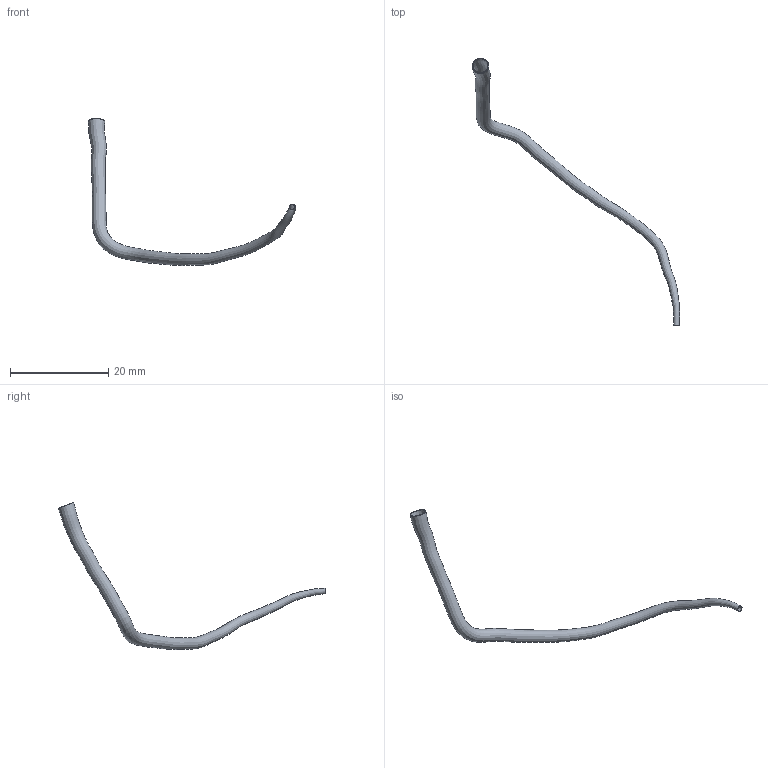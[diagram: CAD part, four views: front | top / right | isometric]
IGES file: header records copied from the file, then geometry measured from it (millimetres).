
Global section: file name: C:\Documents and Settings\Administrator\Desktop\FDA-Pig\Domestic LCA\Pig_000011\lad.seg.es.igs; native system: Rhinoceros ( May 19 2006 ); preprocessor: Trout Lake IGES 012 May 19 2006; date: 111205.183943; units: centimetre
Bounding box: 42.11 x 54.34 x 29.87 mm (x, y, z)
Surface area: 1269.2 mm2 (no closed solid volume)
Topology: 0 solids, 0 shells, 4 faces, 13 edges, 10 vertices
Faces by surface type: bspline 4
